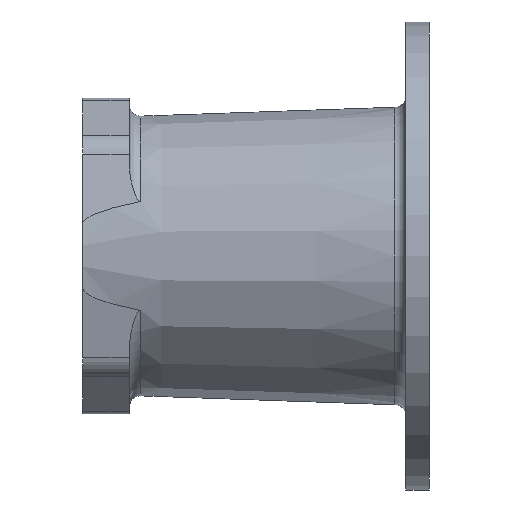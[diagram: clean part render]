
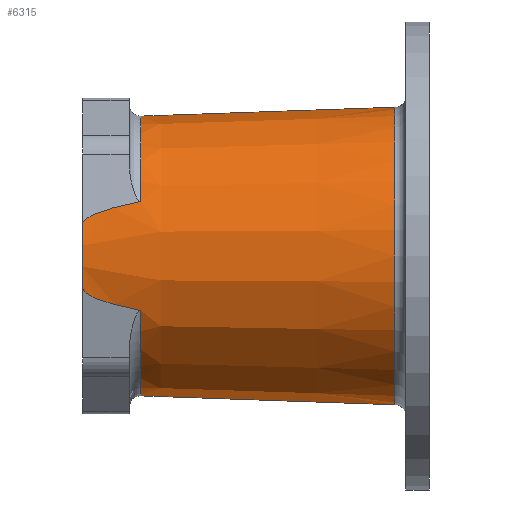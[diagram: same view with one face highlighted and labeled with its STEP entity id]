
A CAD part, left-side view. The second image highlights one B-rep face of the part: STEP entity #6315.
In plain terms, the highlighted conical face has half-angle 2 degrees and reference radius 56.111 mm.
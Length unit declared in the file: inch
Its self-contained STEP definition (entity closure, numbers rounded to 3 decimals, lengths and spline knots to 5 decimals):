
#10 = DIRECTION ( 'NONE',  ( 0., 0., 1. ) ) ;
#146 = CARTESIAN_POINT ( 'NONE',  ( -2.15122, 5.56, -0.50241 ) ) ;
#184 = LINE ( 'NONE', #4843, #6293 ) ;
#209 = CARTESIAN_POINT ( 'NONE',  ( -2.12059, 5.44269, -0.63357 ) ) ;
#247 = AXIS2_PLACEMENT_3D ( 'NONE', #4969, #1451, #5571 ) ;
#366 = CARTESIAN_POINT ( 'NONE',  ( -2.15122, 5.56, 0.50241 ) ) ;
#387 = CARTESIAN_POINT ( 'NONE',  ( -2.06446, 4.62372, 0.87389 ) ) ;
#476 = CARTESIAN_POINT ( 'NONE',  ( -2.10514, 5.29579, 0.69973 ) ) ;
#502 = CARTESIAN_POINT ( 'NONE',  ( -2.14871, 5.56, 0.51315 ) ) ;
#550 = LINE ( 'NONE', #6066, #7027 ) ;
#606 = CARTESIAN_POINT ( 'NONE',  ( 0., 0.55372, -2.38393 ) ) ;
#811 = CARTESIAN_POINT ( 'NONE',  ( -2.11483, 5.39474, -0.65825 ) ) ;
#956 = AXIS2_PLACEMENT_3D ( 'NONE', #7164, #2409, #3605 ) ;
#1062 = CARTESIAN_POINT ( 'NONE',  ( -2.06446, 4.62372, 0.87389 ) ) ;
#1082 = CARTESIAN_POINT ( 'NONE',  ( -2.11493, 5.39568, 0.65781 ) ) ;
#1220 = ORIENTED_EDGE ( 'NONE', *, *, #7432, .T. ) ;
#1253 = VERTEX_POINT ( 'NONE', #387 ) ;
#1382 = CARTESIAN_POINT ( 'NONE',  ( -2.14159, 5.54906, -0.54363 ) ) ;
#1413 = CARTESIAN_POINT ( 'NONE',  ( -2.10509, 5.29523, -0.69994 ) ) ;
#1451 = DIRECTION ( 'NONE',  ( 0., -1., 0. ) ) ;
#1669 = VERTEX_POINT ( 'NONE', #4892 ) ;
#1674 = CARTESIAN_POINT ( 'NONE',  ( -2.12192, 5.45322, 0.62787 ) ) ;
#1733 = AXIS2_PLACEMENT_3D ( 'NONE', #6522, #2971, #7137 ) ;
#1874 = CIRCLE ( 'NONE', #2068, 2.24181 ) ;
#1970 = CARTESIAN_POINT ( 'NONE',  ( -2.13554, 5.52966, -0.56957 ) ) ;
#1995 = CARTESIAN_POINT ( 'NONE',  ( -2.09541, 5.17186, -0.74138 ) ) ;
#2068 = AXIS2_PLACEMENT_3D ( 'NONE', #7116, #3565, #10 ) ;
#2161 = AXIS2_PLACEMENT_3D ( 'NONE', #2833, #6995, #3442 ) ;
#2257 = CARTESIAN_POINT ( 'NONE',  ( -2.12891, 5.49791, 0.59794 ) ) ;
#2293 = CARTESIAN_POINT ( 'NONE',  ( 0., 4.62372, -2.24181 ) ) ;
#2398 = VERTEX_POINT ( 'NONE', #3279 ) ;
#2409 = DIRECTION ( 'NONE',  ( 0., -1., 0. ) ) ;
#2545 = CARTESIAN_POINT ( 'NONE',  ( -2.13038, 5.50592, -0.59167 ) ) ;
#2572 = CARTESIAN_POINT ( 'NONE',  ( -2.08188, 4.96295, -0.7993 ) ) ;
#2805 = CARTESIAN_POINT ( 'NONE',  ( -2.07267, 4.79399, 0.83876 ) ) ;
#2827 = CARTESIAN_POINT ( 'NONE',  ( -2.13381, 5.52235, 0.57698 ) ) ;
#2833 = CARTESIAN_POINT ( 'NONE',  ( 0., 5.56, 0. ) ) ;
#2971 = DIRECTION ( 'NONE',  ( 0., 1., 0. ) ) ;
#3014 = VERTEX_POINT ( 'NONE', #606 ) ;
#3071 = DIRECTION ( 'NONE',  ( 0., -0.999, 0.035 ) ) ;
#3101 = CARTESIAN_POINT ( 'NONE',  ( -2.14869, 5.56, -0.51325 ) ) ;
#3135 = CARTESIAN_POINT ( 'NONE',  ( -2.12587, 5.47975, -0.61098 ) ) ;
#3163 = CARTESIAN_POINT ( 'NONE',  ( -2.06844, 4.70891, -0.85686 ) ) ;
#3189 = EDGE_LOOP ( 'NONE', ( #6078, #1220, #3803, #5886, #3594, #4803, #6216, #6265 ) ) ;
#3279 = CARTESIAN_POINT ( 'NONE',  ( -2.15122, 5.56, -0.50241 ) ) ;
#3408 = CARTESIAN_POINT ( 'NONE',  ( -2.08689, 5.04744, 0.77788 ) ) ;
#3436 = CARTESIAN_POINT ( 'NONE',  ( -2.13953, 5.54335, 0.55248 ) ) ;
#3442 = DIRECTION ( 'NONE',  ( 0., 0., -1. ) ) ;
#3565 = DIRECTION ( 'NONE',  ( 0., -1., 0. ) ) ;
#3594 = ORIENTED_EDGE ( 'NONE', *, *, #6067, .T. ) ;
#3605 = DIRECTION ( 'NONE',  ( 0., 0., -1. ) ) ;
#3679 = VERTEX_POINT ( 'NONE', #2293 ) ;
#3703 = FACE_OUTER_BOUND ( 'NONE', #3189, .T. ) ;
#3749 = CARTESIAN_POINT ( 'NONE',  ( -2.12184, 5.45209, -0.62824 ) ) ;
#3751 = DIRECTION ( 'NONE',  ( 0., -0.999, -0.035 ) ) ;
#3803 = ORIENTED_EDGE ( 'NONE', *, *, #6889, .T. ) ;
#4006 = CIRCLE ( 'NONE', #2161, 2.20911 ) ;
#4020 = CARTESIAN_POINT ( 'NONE',  ( -2.09849, 5.2138, 0.72822 ) ) ;
#4037 = CARTESIAN_POINT ( 'NONE',  ( -2.14624, 5.55754, 0.52375 ) ) ;
#4190 = CARTESIAN_POINT ( 'NONE',  ( -2.06446, 4.62372, -0.87389 ) ) ;
#4330 = CARTESIAN_POINT ( 'NONE',  ( -2.11701, 5.41417, -0.64891 ) ) ;
#4361 = CIRCLE ( 'NONE', #1733, 2.38393 ) ;
#4467 = B_SPLINE_CURVE_WITH_KNOTS ( 'NONE', 3,
 ( #1062, #5176, #2805, #6970, #3408, #7567, #4020, #476, #4599, #1082, #5209, #1674, #5784, #2257, #6382, #2827, #6992, #3436, #7590, #4037, #502, #4631 ),
 .UNSPECIFIED., .F., .F.,
 ( 4, 2, 2, 2, 2, 2, 2, 2, 2, 2, 4 ),
 ( -0.00484, 0.00179, 0.00842, 0.01173, 0.01505, 0.01671, 0.01836, 0.01919, 0.02002, 0.02085, 0.02168 ),
 .UNSPECIFIED. ) ;
#4599 = CARTESIAN_POINT ( 'NONE',  ( -2.10874, 5.33633, 0.68432 ) ) ;
#4631 = CARTESIAN_POINT ( 'NONE',  ( -2.15122, 5.56, 0.50241 ) ) ;
#4803 = ORIENTED_EDGE ( 'NONE', *, *, #5075, .T. ) ;
#4843 = CARTESIAN_POINT ( 'NONE',  ( 0., 5.56, 2.20911 ) ) ;
#4892 = CARTESIAN_POINT ( 'NONE',  ( 0., 4.62372, 2.24181 ) ) ;
#4904 = CARTESIAN_POINT ( 'NONE',  ( -2.14624, 5.55757, -0.52373 ) ) ;
#4933 = CARTESIAN_POINT ( 'NONE',  ( -2.10868, 5.33565, -0.68458 ) ) ;
#4943 = EDGE_CURVE ( 'NONE', #5286, #2398, #4006, .T. ) ;
#4969 = CARTESIAN_POINT ( 'NONE',  ( 0., 4.62372, 0. ) ) ;
#5075 = EDGE_CURVE ( 'NONE', #6004, #3679, #1874, .T. ) ;
#5090 = CONICAL_SURFACE ( 'NONE', #956, 2.20911, 0.035 ) ;
#5176 = CARTESIAN_POINT ( 'NONE',  ( -2.06844, 4.70896, 0.85685 ) ) ;
#5209 = CARTESIAN_POINT ( 'NONE',  ( -2.11712, 5.41517, 0.64842 ) ) ;
#5286 = VERTEX_POINT ( 'NONE', #366 ) ;
#5468 = EDGE_CURVE ( 'NONE', #3014, #5541, #4361, .T. ) ;
#5496 = CARTESIAN_POINT ( 'NONE',  ( -2.13949, 5.54323, -0.55265 ) ) ;
#5513 = CARTESIAN_POINT ( 'NONE',  ( -2.09845, 5.2133, -0.72838 ) ) ;
#5541 = VERTEX_POINT ( 'NONE', #6634 ) ;
#5571 = DIRECTION ( 'NONE',  ( 0., 0., 1. ) ) ;
#5784 = CARTESIAN_POINT ( 'NONE',  ( -2.12452, 5.47179, 0.61673 ) ) ;
#5886 = ORIENTED_EDGE ( 'NONE', *, *, #4943, .T. ) ;
#6004 = VERTEX_POINT ( 'NONE', #4190 ) ;
#6066 = CARTESIAN_POINT ( 'NONE',  ( 0., 5.56, -2.20911 ) ) ;
#6067 = EDGE_CURVE ( 'NONE', #2398, #6004, #6261, .T. ) ;
#6078 = ORIENTED_EDGE ( 'NONE', *, *, #6362, .F. ) ;
#6094 = CARTESIAN_POINT ( 'NONE',  ( -2.13373, 5.52202, -0.57731 ) ) ;
#6131 = CARTESIAN_POINT ( 'NONE',  ( -2.08686, 5.04704, -0.77798 ) ) ;
#6216 = ORIENTED_EDGE ( 'NONE', *, *, #6990, .T. ) ;
#6261 = B_SPLINE_CURVE_WITH_KNOTS ( 'NONE', 3,
 ( #146, #3101, #4904, #1382, #5496, #1970, #6094, #2545, #6696, #3135, #7297, #3749, #209, #4330, #811, #4933, #1413, #5513, #1995, #6131, #2572, #6716, #3163, #7331 ),
 .UNSPECIFIED., .F., .F.,
 ( 4, 2, 2, 2, 2, 2, 2, 2, 2, 2, 2, 4 ),
 ( 0., 0.00083, 0.00167, 0.0025, 0.00333, 0.00417, 0.005, 0.00667, 0.01, 0.01333, 0.02, 0.02667 ),
 .UNSPECIFIED. ) ;
#6265 = ORIENTED_EDGE ( 'NONE', *, *, #5468, .T. ) ;
#6293 = VECTOR ( 'NONE', #3071, 39.37008 ) ;
#6315 = ADVANCED_FACE ( 'NONE', ( #3703 ), #5090, .T. ) ;
#6362 = EDGE_CURVE ( 'NONE', #1669, #5541, #184, .T. ) ;
#6363 = CIRCLE ( 'NONE', #247, 2.24181 ) ;
#6382 = CARTESIAN_POINT ( 'NONE',  ( -2.13046, 5.50634, 0.59132 ) ) ;
#6522 = CARTESIAN_POINT ( 'NONE',  ( 0., 0.55372, 0. ) ) ;
#6634 = CARTESIAN_POINT ( 'NONE',  ( 0., 0.55372, 2.38393 ) ) ;
#6696 = CARTESIAN_POINT ( 'NONE',  ( -2.12882, 5.4974, -0.59834 ) ) ;
#6716 = CARTESIAN_POINT ( 'NONE',  ( -2.07266, 4.79389, -0.83878 ) ) ;
#6889 = EDGE_CURVE ( 'NONE', #1253, #5286, #4467, .T. ) ;
#6970 = CARTESIAN_POINT ( 'NONE',  ( -2.0819, 4.9632, 0.79924 ) ) ;
#6990 = EDGE_CURVE ( 'NONE', #3679, #3014, #550, .T. ) ;
#6992 = CARTESIAN_POINT ( 'NONE',  ( -2.13562, 5.52997, 0.56923 ) ) ;
#6995 = DIRECTION ( 'NONE',  ( 0., -1., 0. ) ) ;
#7027 = VECTOR ( 'NONE', #3751, 39.37008 ) ;
#7116 = CARTESIAN_POINT ( 'NONE',  ( 0., 4.62372, 0. ) ) ;
#7137 = DIRECTION ( 'NONE',  ( 0., 0., -1. ) ) ;
#7164 = CARTESIAN_POINT ( 'NONE',  ( 0., 5.56, 0. ) ) ;
#7297 = CARTESIAN_POINT ( 'NONE',  ( -2.12447, 5.4706, -0.61695 ) ) ;
#7331 = CARTESIAN_POINT ( 'NONE',  ( -2.06446, 4.62372, -0.87389 ) ) ;
#7432 = EDGE_CURVE ( 'NONE', #1669, #1253, #6363, .T. ) ;
#7567 = CARTESIAN_POINT ( 'NONE',  ( -2.09545, 5.1724, 0.74121 ) ) ;
#7590 = CARTESIAN_POINT ( 'NONE',  ( -2.14167, 5.54922, 0.5433 ) ) ;
